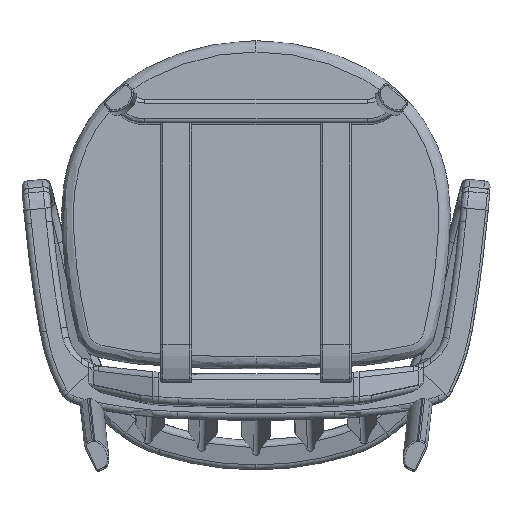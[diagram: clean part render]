
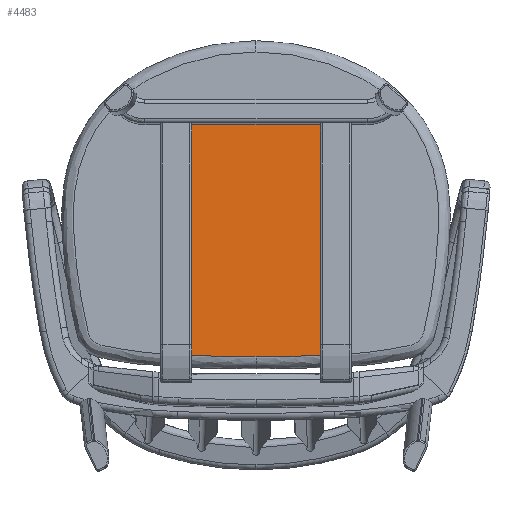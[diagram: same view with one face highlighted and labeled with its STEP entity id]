
A CAD part, front view. The second image highlights one B-rep face of the part: STEP entity #4483.
In plain terms, the highlighted planar face has unit normal (0, -0.998, 0.058).
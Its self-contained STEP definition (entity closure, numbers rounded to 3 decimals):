
#1830 = VERTEX_POINT ( 'NONE', #42625 ) ;
#4483 = ADVANCED_FACE ( 'NONE', ( #19509 ), #36126, .F. ) ;
#5301 = VERTEX_POINT ( 'NONE', #17657 ) ;
#5444 = AXIS2_PLACEMENT_3D ( 'NONE', #24143, #27690, #44057 ) ;
#5662 = CARTESIAN_POINT ( 'NONE',  ( -85., 375.469, 441.118 ) ) ;
#6292 = DIRECTION ( 'NONE',  ( 0., -0.058, -0.998 ) ) ;
#7285 = VERTEX_POINT ( 'NONE', #27792 ) ;
#7696 = EDGE_LOOP ( 'NONE', ( #26584, #50506, #42041, #44979, #47660 ) ) ;
#8652 = VERTEX_POINT ( 'NONE', #5662 ) ;
#9759 = DIRECTION ( 'NONE',  ( 0., -0.058, -0.998 ) ) ;
#10286 = LINE ( 'NONE', #39432, #23231 ) ;
#10878 = CARTESIAN_POINT ( 'NONE',  ( 0., 497.708, 2561.128 ) ) ;
#11676 = DIRECTION ( 'NONE',  ( 0., 0.058, 0.998 ) ) ;
#13598 = VECTOR ( 'NONE', #6292, 1000. ) ;
#17657 = CARTESIAN_POINT ( 'NONE',  ( -85., 358.463, 146.182 ) ) ;
#19509 = FACE_OUTER_BOUND ( 'NONE', #7696, .T. ) ;
#23231 = VECTOR ( 'NONE', #9759, 1000. ) ;
#24143 = CARTESIAN_POINT ( 'NONE',  ( 0., 364.422, 249.517 ) ) ;
#26584 = ORIENTED_EDGE ( 'NONE', *, *, #31331, .F. ) ;
#27026 = LINE ( 'NONE', #43631, #13598 ) ;
#27690 = DIRECTION ( 'NONE',  ( 0., 0.998, -0.058 ) ) ;
#27792 = CARTESIAN_POINT ( 'NONE',  ( 85., 375.469, 441.118 ) ) ;
#28517 = CIRCLE ( 'NONE', #35476, 2420.45 ) ;
#28690 = CARTESIAN_POINT ( 'NONE',  ( 0., 497.708, 2561.128 ) ) ;
#29496 = VERTEX_POINT ( 'NONE', #45904 ) ;
#29755 = VECTOR ( 'NONE', #30029, 1000. ) ;
#30029 = DIRECTION ( 'NONE',  ( -1., 0., 0. ) ) ;
#30224 = EDGE_CURVE ( 'NONE', #1830, #5301, #28517, .T. ) ;
#31310 = DIRECTION ( 'NONE',  ( 0., 0.998, -0.058 ) ) ;
#31331 = EDGE_CURVE ( 'NONE', #29496, #1830, #53852, .T. ) ;
#34583 = DIRECTION ( 'NONE',  ( 0., 0.998, -0.058 ) ) ;
#35476 = AXIS2_PLACEMENT_3D ( 'NONE', #10878, #31310, #11676 ) ;
#36126 = PLANE ( 'NONE',  #5444 ) ;
#36395 = AXIS2_PLACEMENT_3D ( 'NONE', #28690, #34583, #51240 ) ;
#38727 = EDGE_CURVE ( 'NONE', #7285, #8652, #50486, .T. ) ;
#39432 = CARTESIAN_POINT ( 'NONE',  ( 85., 348.875, -20.116 ) ) ;
#42041 = ORIENTED_EDGE ( 'NONE', *, *, #38727, .T. ) ;
#42625 = CARTESIAN_POINT ( 'NONE',  ( 0., 358.378, 144.692 ) ) ;
#43631 = CARTESIAN_POINT ( 'NONE',  ( -85., 348.875, -20.116 ) ) ;
#44057 = DIRECTION ( 'NONE',  ( 0., 0.058, 0.998 ) ) ;
#44979 = ORIENTED_EDGE ( 'NONE', *, *, #48156, .T. ) ;
#45904 = CARTESIAN_POINT ( 'NONE',  ( 85., 358.463, 146.182 ) ) ;
#47660 = ORIENTED_EDGE ( 'NONE', *, *, #30224, .F. ) ;
#48156 = EDGE_CURVE ( 'NONE', #8652, #5301, #27026, .T. ) ;
#50486 = LINE ( 'NONE', #50758, #29755 ) ;
#50506 = ORIENTED_EDGE ( 'NONE', *, *, #51832, .F. ) ;
#50758 = CARTESIAN_POINT ( 'NONE',  ( 141.906, 375.469, 441.118 ) ) ;
#51240 = DIRECTION ( 'NONE',  ( 0., 0.058, 0.998 ) ) ;
#51832 = EDGE_CURVE ( 'NONE', #7285, #29496, #10286, .T. ) ;
#53852 = CIRCLE ( 'NONE', #36395, 2420.45 ) ;
